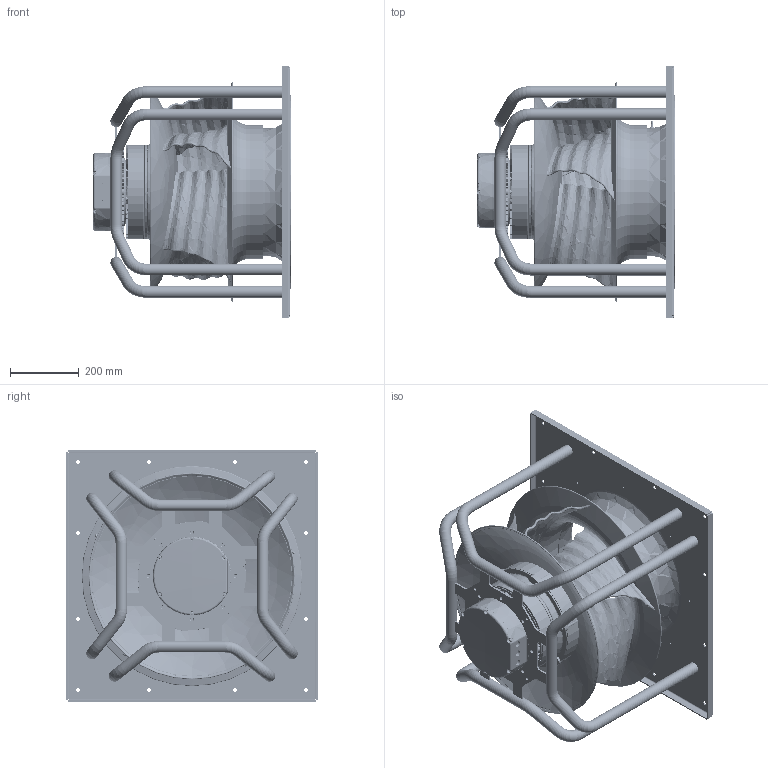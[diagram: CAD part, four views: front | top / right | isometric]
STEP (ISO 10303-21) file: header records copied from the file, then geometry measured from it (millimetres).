
FILE_DESCRIPTION((''),'2;1');
FILE_NAME('ZAC_15-12-27-KM','2019-02-05T',('hummt'),(''),'CREO PARAMETRIC BY PTC INC, 2017170','CREO PARAMETRIC BY PTC INC, 2017170','');
FILE_SCHEMA(('AUTOMOTIVE_DESIGN { 1 0 10303 214 1 1 1 1 }'));
Length unit declared in the file: millimetre
Products named in the file (1): ZAC_15-12-27-KM
Bounding box: 574.51 x 730 x 730 mm (x, y, z)
Volume: 18156706.3 mm3; surface area: 4849621 mm2
Topology: 2 solids, 2 shells, 7727 faces, 19407 edges, 11808 vertices
Faces by surface type: bspline 2236, plane 1785, cylinder 1268, torus 1127, cone 827, extrusion 434, sphere 42, revolution 8
Entity records: 463795 total; most frequent: CARTESIAN_POINT 286191, ORIENTED_EDGE 38804, DIRECTION 30364, EDGE_CURVE 19402, AXIS2_PLACEMENT_3D 12447, VERTEX_POINT 11808, EDGE_LOOP 8092, FACE_OUTER_BOUND 7727
